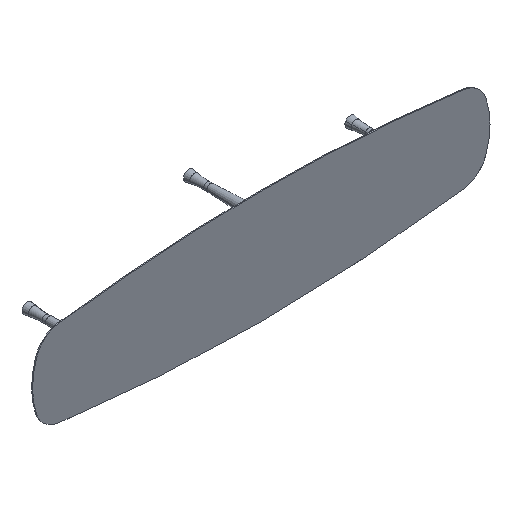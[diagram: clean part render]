
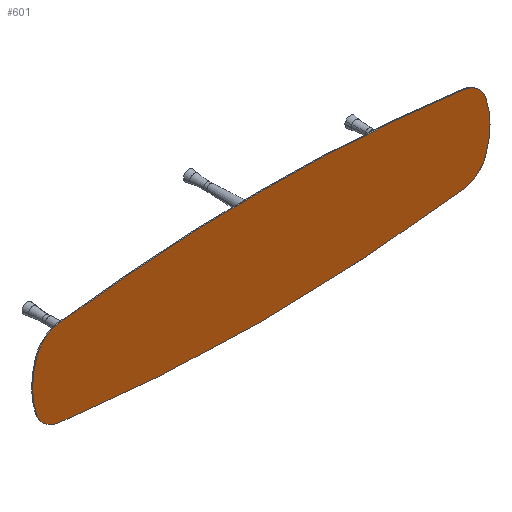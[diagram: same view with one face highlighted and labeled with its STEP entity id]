
A CAD part, isometric view. The second image highlights one B-rep face of the part: STEP entity #601.
In plain terms, the highlighted planar face has unit normal (0, -1, 0).
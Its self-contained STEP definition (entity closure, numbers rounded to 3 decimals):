
#3 = DIRECTION ( 'NONE',  ( 0., 1., 0. ) ) ;
#22 = CARTESIAN_POINT ( 'NONE',  ( 1.108, -18., 209.994 ) ) ;
#33 = VERTEX_POINT ( 'NONE', #22 ) ;
#94 = ORIENTED_EDGE ( 'NONE', *, *, #1069, .F. ) ;
#97 = DIRECTION ( 'NONE',  ( 0., 0., 1. ) ) ;
#98 = AXIS2_PLACEMENT_3D ( 'NONE', #523, #3, #722 ) ;
#110 = CARTESIAN_POINT ( 'NONE',  ( -737.332, -18., 59.328 ) ) ;
#113 = EDGE_CURVE ( 'NONE', #534, #162, #269, .T. ) ;
#116 = DIRECTION ( 'NONE',  ( 0., 0., -1. ) ) ;
#131 = DIRECTION ( 'NONE',  ( 0., 0., 1. ) ) ;
#139 = DIRECTION ( 'NONE',  ( 0., 1., 0. ) ) ;
#156 = DIRECTION ( 'NONE',  ( 0., 1., 0. ) ) ;
#162 = VERTEX_POINT ( 'NONE', #776 ) ;
#180 = DIRECTION ( 'NONE',  ( 0., -1., 0. ) ) ;
#190 = CARTESIAN_POINT ( 'NONE',  ( 1.108, -18., 5468.344 ) ) ;
#192 = DIRECTION ( 'NONE',  ( 0., -1., 0. ) ) ;
#231 = ORIENTED_EDGE ( 'NONE', *, *, #1234, .F. ) ;
#242 = EDGE_CURVE ( 'NONE', #1056, #33, #906, .T. ) ;
#269 = CIRCLE ( 'NONE', #873, 282.587 ) ;
#303 = DIRECTION ( 'NONE',  ( 0., -1., 0. ) ) ;
#306 = DIRECTION ( 'NONE',  ( 0., 0., 1. ) ) ;
#310 = VERTEX_POINT ( 'NONE', #387 ) ;
#363 = ORIENTED_EDGE ( 'NONE', *, *, #1078, .T. ) ;
#375 = DIRECTION ( 'NONE',  ( 0., 0., 1. ) ) ;
#378 = EDGE_CURVE ( 'NONE', #33, #1092, #577, .T. ) ;
#387 = CARTESIAN_POINT ( 'NONE',  ( 752.996, -18., -160.006 ) ) ;
#406 = CARTESIAN_POINT ( 'NONE',  ( -833.282, -18., 92.615 ) ) ;
#407 = EDGE_CURVE ( 'NONE', #310, #1180, #807, .T. ) ;
#411 = CARTESIAN_POINT ( 'NONE',  ( -750.78, -18., 159.994 ) ) ;
#419 = AXIS2_PLACEMENT_3D ( 'NONE', #949, #303, #1151 ) ;
#422 = DIRECTION ( 'NONE',  ( 0., 1., 0. ) ) ;
#447 = EDGE_CURVE ( 'NONE', #569, #1102, #1211, .T. ) ;
#468 = DIRECTION ( 'NONE',  ( 0., 0., -1. ) ) ;
#490 = EDGE_CURVE ( 'NONE', #1092, #1102, #1281, .T. ) ;
#514 = AXIS2_PLACEMENT_3D ( 'NONE', #1307, #139, #131 ) ;
#517 = CIRCLE ( 'NONE', #1337, 101.56 ) ;
#523 = CARTESIAN_POINT ( 'NONE',  ( -566.305, -18., -0.006 ) ) ;
#534 = VERTEX_POINT ( 'NONE', #976 ) ;
#543 = ORIENTED_EDGE ( 'NONE', *, *, #378, .T. ) ;
#548 = EDGE_LOOP ( 'NONE', ( #94, #1228, #543, #864, #1027, #231, #1094, #363, #750 ) ) ;
#569 = VERTEX_POINT ( 'NONE', #744 ) ;
#577 = CIRCLE ( 'NONE', #419, 5678.351 ) ;
#601 = ADVANCED_FACE ( 'NONE', ( #855 ), #985, .F. ) ;
#625 = AXIS2_PLACEMENT_3D ( 'NONE', #110, #1179, #116 ) ;
#630 = CARTESIAN_POINT ( 'NONE',  ( 739.548, -18., -59.34 ) ) ;
#700 = CARTESIAN_POINT ( 'NONE',  ( 1.108, -18., -5468.357 ) ) ;
#722 = DIRECTION ( 'NONE',  ( 0., 0., 1. ) ) ;
#744 = CARTESIAN_POINT ( 'NONE',  ( -833.282, -18., -92.628 ) ) ;
#750 = ORIENTED_EDGE ( 'NONE', *, *, #113, .T. ) ;
#753 = CIRCLE ( 'NONE', #1126, 101.56 ) ;
#776 = CARTESIAN_POINT ( 'NONE',  ( 835.498, -18., 92.615 ) ) ;
#779 = CARTESIAN_POINT ( 'NONE',  ( -750.78, -18., -160.006 ) ) ;
#785 = CARTESIAN_POINT ( 'NONE',  ( -737.332, -18., -59.34 ) ) ;
#804 = CIRCLE ( 'NONE', #865, 101.56 ) ;
#807 = CIRCLE ( 'NONE', #1090, 5678.351 ) ;
#855 = FACE_OUTER_BOUND ( 'NONE', #548, .T. ) ;
#864 = ORIENTED_EDGE ( 'NONE', *, *, #490, .T. ) ;
#865 = AXIS2_PLACEMENT_3D ( 'NONE', #630, #192, #947 ) ;
#873 = AXIS2_PLACEMENT_3D ( 'NONE', #1203, #893, #468 ) ;
#893 = DIRECTION ( 'NONE',  ( 0., -1., 0. ) ) ;
#906 = CIRCLE ( 'NONE', #1278, 5678.351 ) ;
#931 = DIRECTION ( 'NONE',  ( 0., 0., -1. ) ) ;
#947 = DIRECTION ( 'NONE',  ( 0., 0., -1. ) ) ;
#949 = CARTESIAN_POINT ( 'NONE',  ( 1.108, -18., -5468.357 ) ) ;
#955 = DIRECTION ( 'NONE',  ( 0., 1., 0. ) ) ;
#963 = CARTESIAN_POINT ( 'NONE',  ( 739.548, -18., 59.328 ) ) ;
#976 = CARTESIAN_POINT ( 'NONE',  ( 835.498, -18., -92.628 ) ) ;
#985 = PLANE ( 'NONE',  #514 ) ;
#1027 = ORIENTED_EDGE ( 'NONE', *, *, #447, .F. ) ;
#1056 = VERTEX_POINT ( 'NONE', #1367 ) ;
#1069 = EDGE_CURVE ( 'NONE', #1056, #162, #753, .T. ) ;
#1078 = EDGE_CURVE ( 'NONE', #310, #534, #804, .T. ) ;
#1090 = AXIS2_PLACEMENT_3D ( 'NONE', #190, #955, #306 ) ;
#1092 = VERTEX_POINT ( 'NONE', #411 ) ;
#1094 = ORIENTED_EDGE ( 'NONE', *, *, #407, .F. ) ;
#1102 = VERTEX_POINT ( 'NONE', #406 ) ;
#1126 = AXIS2_PLACEMENT_3D ( 'NONE', #963, #422, #97 ) ;
#1151 = DIRECTION ( 'NONE',  ( 0., 0., -1. ) ) ;
#1179 = DIRECTION ( 'NONE',  ( 0., -1., 0. ) ) ;
#1180 = VERTEX_POINT ( 'NONE', #779 ) ;
#1203 = CARTESIAN_POINT ( 'NONE',  ( 568.521, -18., -0.006 ) ) ;
#1211 = CIRCLE ( 'NONE', #98, 282.587 ) ;
#1228 = ORIENTED_EDGE ( 'NONE', *, *, #242, .T. ) ;
#1234 = EDGE_CURVE ( 'NONE', #1180, #569, #517, .T. ) ;
#1278 = AXIS2_PLACEMENT_3D ( 'NONE', #700, #180, #931 ) ;
#1281 = CIRCLE ( 'NONE', #625, 101.56 ) ;
#1307 = CARTESIAN_POINT ( 'NONE',  ( 654.035, -18., 29.661 ) ) ;
#1337 = AXIS2_PLACEMENT_3D ( 'NONE', #785, #156, #375 ) ;
#1367 = CARTESIAN_POINT ( 'NONE',  ( 752.996, -18., 159.994 ) ) ;
